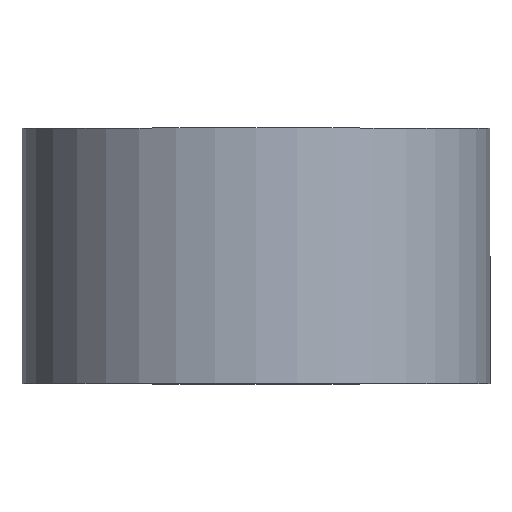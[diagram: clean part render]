
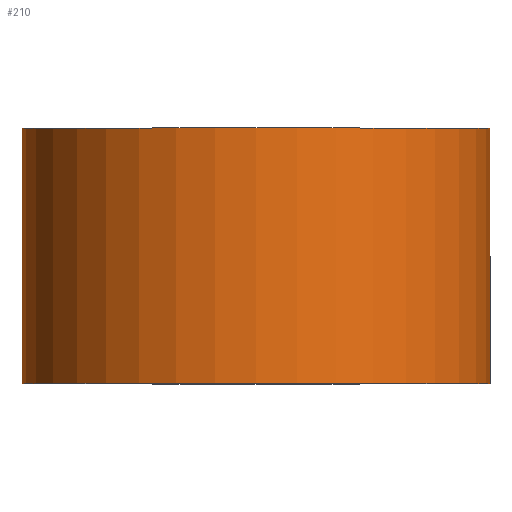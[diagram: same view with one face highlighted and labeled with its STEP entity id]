
A CAD part, top view. The second image highlights one B-rep face of the part: STEP entity #210.
In plain terms, the highlighted cylindrical face has radius 27.5 mm (diameter 55 mm), a partial arc.
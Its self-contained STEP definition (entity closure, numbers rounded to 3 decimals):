
#6 = ORIENTED_EDGE ( 'NONE', *, *, #254, .T. ) ;
#10 = CARTESIAN_POINT ( 'NONE',  ( -27.5, 0., 0. ) ) ;
#21 = CIRCLE ( 'NONE', #132, 27.5 ) ;
#25 = AXIS2_PLACEMENT_3D ( 'NONE', #268, #288, #157 ) ;
#32 = LINE ( 'NONE', #180, #105 ) ;
#48 = CYLINDRICAL_SURFACE ( 'NONE', #25, 27.5 ) ;
#53 = CIRCLE ( 'NONE', #267, 27.5 ) ;
#54 = DIRECTION ( 'NONE',  ( 0., 1., 0. ) ) ;
#61 = VERTEX_POINT ( 'NONE', #98 ) ;
#64 = DIRECTION ( 'NONE',  ( 0., 1., 0. ) ) ;
#69 = EDGE_CURVE ( 'NONE', #128, #61, #21, .T. ) ;
#80 = CARTESIAN_POINT ( 'NONE',  ( -27.5, 30., 0. ) ) ;
#89 = VERTEX_POINT ( 'NONE', #80 ) ;
#95 = ORIENTED_EDGE ( 'NONE', *, *, #115, .F. ) ;
#98 = CARTESIAN_POINT ( 'NONE',  ( 27.5, 0., 0. ) ) ;
#101 = CARTESIAN_POINT ( 'NONE',  ( 0., 0., 0. ) ) ;
#105 = VECTOR ( 'NONE', #64, 1000. ) ;
#115 = EDGE_CURVE ( 'NONE', #128, #89, #203, .T. ) ;
#116 = ORIENTED_EDGE ( 'NONE', *, *, #213, .F. ) ;
#128 = VERTEX_POINT ( 'NONE', #159 ) ;
#131 = DIRECTION ( 'NONE',  ( 0., 1., 0. ) ) ;
#132 = AXIS2_PLACEMENT_3D ( 'NONE', #101, #54, #284 ) ;
#157 = DIRECTION ( 'NONE',  ( -1., 0., 0. ) ) ;
#159 = CARTESIAN_POINT ( 'NONE',  ( -27.5, 0., 0. ) ) ;
#178 = VECTOR ( 'NONE', #131, 1000. ) ;
#179 = VERTEX_POINT ( 'NONE', #227 ) ;
#180 = CARTESIAN_POINT ( 'NONE',  ( 27.5, 0., 0. ) ) ;
#203 = LINE ( 'NONE', #10, #178 ) ;
#210 = ADVANCED_FACE ( 'NONE', ( #241 ), #48, .T. ) ;
#213 = EDGE_CURVE ( 'NONE', #89, #179, #53, .T. ) ;
#227 = CARTESIAN_POINT ( 'NONE',  ( 27.5, 30., 0. ) ) ;
#241 = FACE_OUTER_BOUND ( 'NONE', #275, .T. ) ;
#247 = ORIENTED_EDGE ( 'NONE', *, *, #69, .T. ) ;
#251 = DIRECTION ( 'NONE',  ( 0., 1., 0. ) ) ;
#254 = EDGE_CURVE ( 'NONE', #61, #179, #32, .T. ) ;
#267 = AXIS2_PLACEMENT_3D ( 'NONE', #271, #251, #276 ) ;
#268 = CARTESIAN_POINT ( 'NONE',  ( 0., 0., 0. ) ) ;
#271 = CARTESIAN_POINT ( 'NONE',  ( 0., 30., 0. ) ) ;
#275 = EDGE_LOOP ( 'NONE', ( #247, #6, #116, #95 ) ) ;
#276 = DIRECTION ( 'NONE',  ( -1., 0., 0. ) ) ;
#284 = DIRECTION ( 'NONE',  ( -1., 0., 0. ) ) ;
#288 = DIRECTION ( 'NONE',  ( 0., 1., 0. ) ) ;
